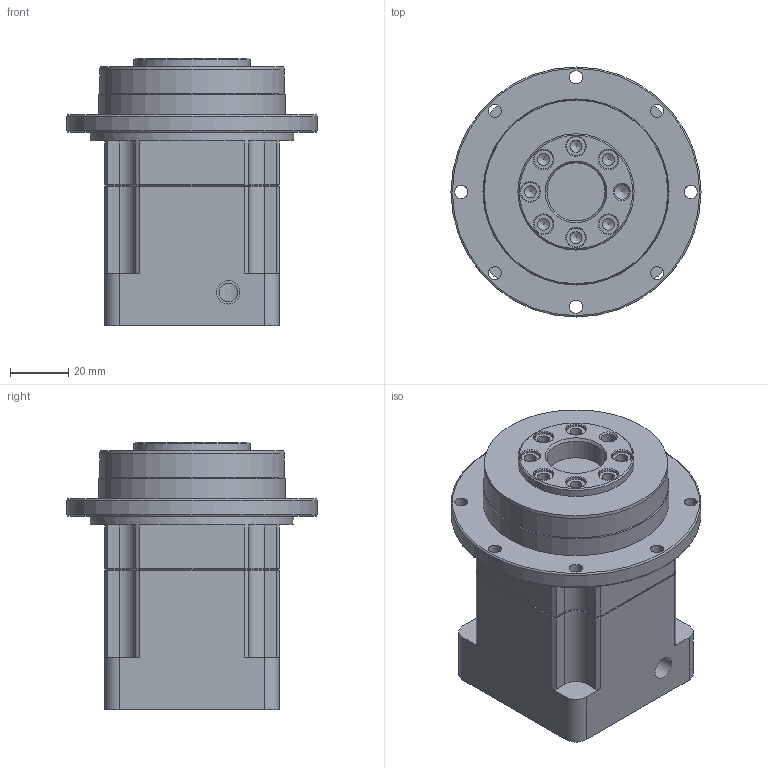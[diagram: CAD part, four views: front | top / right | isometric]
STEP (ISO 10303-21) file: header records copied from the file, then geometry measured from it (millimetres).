
FILE_DESCRIPTION((''),'2;1');
FILE_NAME('D:\유성\유성\도면\3D\2. 홈페이지용 3D 도면 (ipt)\외부도\SPIFH060\SPIFH060 SERIES (1 STAGE)_Shrinkwrap_1.stp','2014-05-08T14:11:18',('nagyu'),(''),'Autodesk Inventor 2013','Autodesk Inventor 2013','');
FILE_SCHEMA(('AUTOMOTIVE_DESIGN { 1 0 10303 214 1 1 1 1 }'));
Length unit declared in the file: millimetre
Products named in the file (1): SPIFH060 SERIES (1 STAGE)_Shrinkwrap_1
Bounding box: 86 x 86 x 92.1 mm (x, y, z)
Volume: 279918.7 mm3; surface area: 41338 mm2
Topology: 1 solids, 1 shells, 183 faces, 459 edges, 290 vertices
Faces by surface type: plane 76, cylinder 59, cone 46, torus 2
Full cylindrical faces by diameter (mm): 4.134 x11, 4.5 x8, 5 x1, 6.401 x1, 6.5 x7, 8 x1, 14 x1, 20 x1, 25 x1, 40 x1, 47 x1, 50 x1, 63.5 x1, 64 x1, 70 x1, 86 x1
Entity records: 4986 total; most frequent: CARTESIAN_POINT 905, DIRECTION 886, ORIENTED_EDGE 726, AXIS2_PLACEMENT_3D 364, EDGE_CURVE 363, EDGE_LOOP 286, VERTEX_POINT 265, FACE_OUTER_BOUND 183
